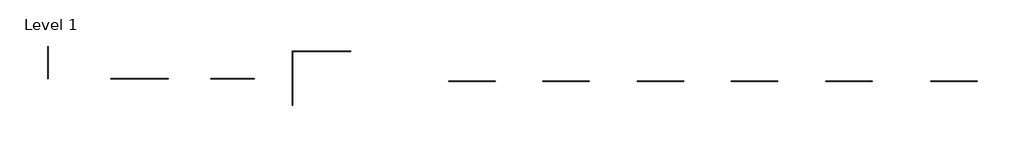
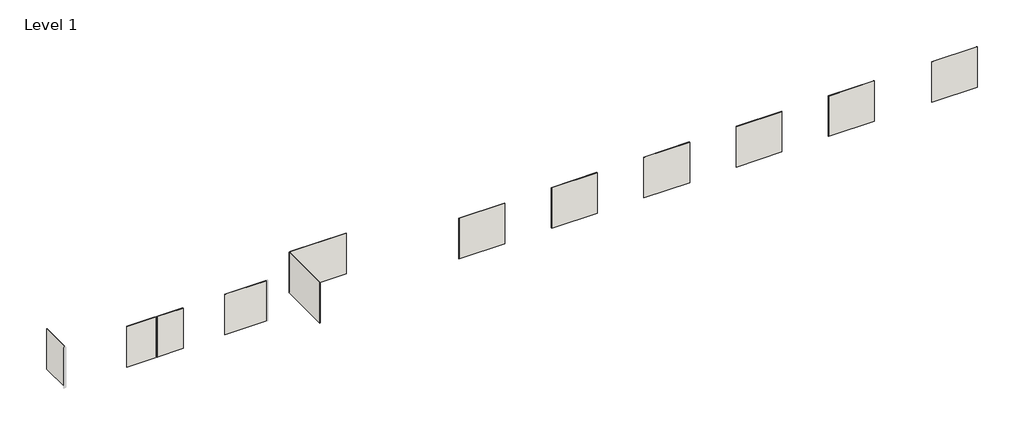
# One storey, part 1 of 2: 12 walls.
"""IFC4 building model written with IfcOpenShell, lengths in millimetres."""

import ifcopenshell
import ifcopenshell.guid

model = None  # the IFC model being written
_history = None  # IfcOwnerHistory: only IFC2X3 demands one
_inside = {}  # id of a spatial element -> (the spatial element, [elements in it])
_under = {}  # id of a project, library or spatial element -> (it, [spatial elements below it])
_declared = {}  # id of a project -> (the project, [libraries it declares])
_typed = {}  # id of a type object -> (the type object, [elements of that type])
_made_of = {}  # id of a material, layer set ... -> (it, [elements and type objects made of it])


def new_model(schema):
    """Start an empty IFC model of exactly this schema.

    Asked for "IFC4X3", IfcOpenShell would pick the latest addendum, in which some entities
    have other attributes; the version numbers below select the first issue.
    IFC2X3 requires an IfcOwnerHistory on every rooted entity: one is made here for all.
    """
    global model, _history
    if schema == "IFC4X3":
        model = ifcopenshell.file(schema_version=(4, 3, 0, 0))
    else:
        model = ifcopenshell.file(schema=schema)
    _inside.clear()
    _under.clear()
    _declared.clear()
    _typed.clear()
    _made_of.clear()
    _history = None
    if model.schema == "IFC2X3":
        org = make("IfcOrganization", Name="unknown")
        user = make(
            "IfcPersonAndOrganization",
            ThePerson=make("IfcPerson", FamilyName="unknown"),
            TheOrganization=org,
        )
        app = make(
            "IfcApplication",
            ApplicationDeveloper=org,
            Version="unknown",
            ApplicationFullName="unknown",
            ApplicationIdentifier="unknown",
        )
        _history = make(
            "IfcOwnerHistory",
            OwningUser=user,
            OwningApplication=app,
            ChangeAction="ADDED",
            CreationDate=0,
        )
    return model


def make(cls, **values):
    """One entity of the class cls with the attributes given. An attribute that is None is left unset."""
    return model.create_entity(
        cls, **{name: value for name, value in values.items() if value is not None}
    )


def rooted(cls, **values):
    """An entity with a GlobalId (a new one), such as an element, a storey or a relation."""
    return make(cls, GlobalId=ifcopenshell.guid.new(), OwnerHistory=_history, **values)


def si_unit(unit_type, name, prefix=None):
    """IfcSIUnit, for example si_unit("LENGTHUNIT", "METRE", prefix="MILLI")."""
    return make("IfcSIUnit", UnitType=unit_type, Prefix=prefix, Name=name)


def assignment(units):
    """IfcUnitAssignment: the units of a project."""
    return None if units is None else make("IfcUnitAssignment", Units=units)


def point(xyz):
    """IfcCartesianPoint."""
    return None if xyz is None else make("IfcCartesianPoint", Coordinates=xyz)


def direction(xyz):
    """IfcDirection."""
    return None if xyz is None else make("IfcDirection", DirectionRatios=xyz)


def frame(location, z_axis=None, x_axis=None):
    """IfcAxis2Placement3D, a coordinate frame: its origin and axes. An axis left out is left unset."""
    return make(
        "IfcAxis2Placement3D",
        Location=point(location),
        Axis=direction(z_axis),
        RefDirection=direction(x_axis),
    )


def frame_2d(location, x_axis=None):
    """IfcAxis2Placement2D, a coordinate frame in the plane: its origin and x axis."""
    return make(
        "IfcAxis2Placement2D", Location=point(location), RefDirection=direction(x_axis)
    )


def origin():
    """The frame at (0, 0, 0) with its axes left unset."""
    return frame((0.0, 0.0, 0.0))


def place(relative_to, where):
    """IfcLocalPlacement: puts the frame where relative to a parent placement (None: the world)."""
    return make(
        "IfcLocalPlacement", PlacementRelTo=relative_to, RelativePlacement=where
    )


def context(
    kind, dimensions, precision=None, world=None, true_north=None, identifier=None
):
    """IfcGeometricRepresentationContext, for example the 3D "Model" context."""
    return make(
        "IfcGeometricRepresentationContext",
        ContextIdentifier=identifier,
        ContextType=kind,
        CoordinateSpaceDimension=dimensions,
        Precision=precision,
        WorldCoordinateSystem=world,
        TrueNorth=true_north,
    )


def project(units=None, contexts=None):
    """IfcProject with its units and contexts."""
    return rooted(
        "IfcProject",
        Name="project",
        RepresentationContexts=contexts,
        UnitsInContext=assignment(units),
    )


def spatial(cls, under=None, at=None, **own):
    """A site, building, storey or space (cls), placed at a placement, below another one or the project."""
    s = rooted(cls, ObjectPlacement=at, **own)
    if under is not None:
        _under.setdefault(under.id(), (under, []))[1].append(s)
    return s


def polyline(points):
    """IfcPolyline through the points."""
    return make("IfcPolyline", Points=[point(p) for p in points])


def circle_curve(where, radius):
    """IfcCircle in the frame where."""
    return make("IfcCircle", Position=where, Radius=radius)


def trimmed(basis, trim1, trim2, sense, master):
    """IfcTrimmedCurve: the piece of a basis curve between two trims."""
    return make(
        "IfcTrimmedCurve",
        BasisCurve=basis,
        Trim1=trim1,
        Trim2=trim2,
        SenseAgreement=sense,
        MasterRepresentation=master,
    )


def segment(curve, same_sense, transition):
    """IfcCompositeCurveSegment."""
    return make(
        "IfcCompositeCurveSegment",
        Transition=transition,
        SameSense=same_sense,
        ParentCurve=curve,
    )


def composite_curve(segments, self_intersect=None):
    """IfcCompositeCurve: segments joined end to end."""
    return make("IfcCompositeCurve", Segments=segments, SelfIntersect=self_intersect)


def outline(outer, holes=None, kind="AREA"):
    """IfcArbitraryClosedProfileDef: a profile drawn as a closed curve; with holes, ...WithVoids."""
    if holes is None:
        return make("IfcArbitraryClosedProfileDef", ProfileType=kind, OuterCurve=outer)
    return make(
        "IfcArbitraryProfileDefWithVoids",
        ProfileType=kind,
        OuterCurve=outer,
        InnerCurves=holes,
    )


def extrude(swept, where, along, depth):
    """IfcExtrudedAreaSolid: the profile swept, set in the frame where, extruded along a direction by depth."""
    return make(
        "IfcExtrudedAreaSolid",
        SweptArea=swept,
        Position=where,
        ExtrudedDirection=direction(along),
        Depth=depth,
    )


def shape(context_of_items, identifier, shape_type, items):
    """IfcShapeRepresentation: the items that make up one representation, for example the "Body"."""
    return make(
        "IfcShapeRepresentation",
        ContextOfItems=context_of_items,
        RepresentationIdentifier=identifier,
        RepresentationType=shape_type,
        Items=items,
    )


def made_of(thing, what):
    """Note that an element or type object is made of a material, layer set ...; save() writes the relation."""
    if what is not None:
        _made_of.setdefault(what.id(), (what, []))[1].append(thing)
    return thing


def element(
    cls,
    number,
    at=None,
    inside=None,
    cuts=None,
    type_object=None,
    material=None,
    context=None,
    identifier="Body",
    shape_type=None,
    held_by="IfcProductDefinitionShape",
    body=None,
    shapes=None,
    **own,
):
    """One element of the class cls, such as IfcWall. Its Tag is "e" and its number.

    at: its placement. inside: the storey or other place that contains it. cuts: it is an
    opening in that element (IfcRelVoidsElement). A single representation is given by context,
    identifier, shape_type and body (its items); several are given by shapes. held_by: the class
    of the entity that holds the representations. save() writes the other relations.
    """
    e = rooted(cls, Tag="e%d" % number, ObjectPlacement=at, **own)
    if body is not None:
        shapes = [shape(context, identifier, shape_type, body)]
    if shapes is not None:
        e.Representation = make(held_by, Representations=shapes)
    if inside is not None:
        _inside.setdefault(inside.id(), (inside, []))[1].append(e)
    if cuts is not None:
        rooted(
            "IfcRelVoidsElement", RelatingBuildingElement=cuts, RelatedOpeningElement=e
        )
    if type_object is not None:
        _typed.setdefault(type_object.id(), (type_object, []))[1].append(e)
    return made_of(e, material)


def aggregate(whole, parts):
    """IfcRelAggregates: a whole, such as a stair, and the parts it consists of."""
    return rooted("IfcRelAggregates", RelatingObject=whole, RelatedObjects=parts)


def save(model, path):
    """Write the relations noted so far, then the file.

    IfcRelAggregates (storeys below a building ...), IfcRelContainedInSpatialStructure (elements
    in a storey), IfcRelDefinesByType, IfcRelAssociatesMaterial and IfcRelDeclares: one each for
    every whole, place, type object, material and project.
    """
    for whole, parts in _under.values():
        aggregate(whole, parts)
    for where, things in _inside.values():
        rooted(
            "IfcRelContainedInSpatialStructure",
            RelatedElements=things,
            RelatingStructure=where,
        )
    for kind, things in _typed.values():
        rooted("IfcRelDefinesByType", RelatedObjects=things, RelatingType=kind)
    for what, things in _made_of.values():
        rooted("IfcRelAssociatesMaterial", RelatedObjects=things, RelatingMaterial=what)
    for by, libraries in _declared.values():
        rooted("IfcRelDeclares", RelatingContext=by, RelatedDefinitions=libraries)
    model.write(path)


def plane_surface(at):
    """IfcPlane: the flat surface through the origin of the frame at, square to its z axis."""
    return make("IfcPlane", Position=at)


def cylinder_surface(at, radius):
    """IfcCylindricalSurface: all points at the distance radius from the z axis of the frame at."""
    return make("IfcCylindricalSurface", Position=at, Radius=radius)


def revolved_surface(curve, axis_point, axis_direction):
    """IfcSurfaceOfRevolution: the curve turned about the line through axis_point along axis_direction."""
    return make(
        "IfcSurfaceOfRevolution",
        SweptCurve=make("IfcArbitraryOpenProfileDef", ProfileType="CURVE", Curve=curve),
        AxisPosition=make("IfcAxis1Placement", Location=point(axis_point), Axis=direction(axis_direction)),
    )


def advanced_brep(points, edges, surfaces, faces):
    """IfcAdvancedBrep: a solid bounded by faces that lie on surfaces and meet in shared edges.

    An edge is (start, end): straight between two places in points (the first is 0);
    or (start, end, curve); or (start, end, curve, False) where it runs against its curve.
    A face is (place in surfaces, loops), or (place, loops, False) where it looks against
    its surface's normal. A loop lists edges by number (the first is 1), with a minus sign
    where the edge is run from its end to its start. The first loop is the outer one.
    """
    corners = [point(p) for p in points]
    vertices = [make("IfcVertexPoint", VertexGeometry=c) for c in corners]
    made = []
    for start, end, *more in edges:
        made.append(
            make(
                "IfcEdgeCurve",
                EdgeStart=vertices[start],
                EdgeEnd=vertices[end],
                EdgeGeometry=more[0] if more else make("IfcPolyline", Points=[corners[start], corners[end]]),
                SameSense=more[1] if len(more) > 1 else True,
            )
        )
    hull = []
    for where, loops, *sense in faces:
        bounds = []
        for j, loop in enumerate(loops):
            ring = [make("IfcOrientedEdge", EdgeElement=made[abs(k) - 1], Orientation=k > 0) for k in loop]
            bounds.append(
                make(
                    "IfcFaceOuterBound" if j == 0 else "IfcFaceBound",
                    Bound=make("IfcEdgeLoop", EdgeList=ring),
                    Orientation=True,
                )
            )
        hull.append(make("IfcAdvancedFace", Bounds=bounds, FaceSurface=surfaces[where], SameSense=sense[0] if sense else True))
    return make("IfcAdvancedBrep", Outer=make("IfcClosedShell", CfsFaces=hull))


model = new_model("IFC4")

# Units and contexts
model_context = context("Model", 3, world=origin())
ifc_project = project(units=[si_unit("LENGTHUNIT", "METRE", prefix="MILLI")], contexts=[model_context])

# Site, building, storey
site = spatial("IfcSite", under=ifc_project)
building = spatial("IfcBuilding", under=site)
storey = spatial("IfcBuildingStorey", under=building, Name="Level 1", Elevation=0.0)

# Walls
placement = place(None, origin())
element("IfcWall", 1, ObjectType="NewTechWood - Brazilian Ipe", at=placement, inside=storey, context=model_context, shape_type="SweptSolid", body=[
    extrude(outline(polyline([(6163.7297461, -3646.2746479), (4207.9297461, -3646.2746479), (4207.9297461, -3625.6371479), (6163.7297461, -3625.6371479), (6163.7297461, -3646.2746479)])), frame((0.0, 0.0, 304.8), z_axis=(0.0, 0.0, 1.0), x_axis=(1.0, 0.0, 0.0)), (0.0, 0.0, 1.0), 1828.8),
])
element("IfcWall", 2, ObjectType="NewTechWood - Hawaiian Charcoal", at=placement, inside=storey, context=model_context, shape_type="SweptSolid", body=[
    extrude(outline(polyline([(10126.1297461, -3646.2746479), (8170.3297461, -3646.2746479), (8170.3297461, -3625.6371479), (10126.1297461, -3625.6371479), (10126.1297461, -3646.2746479)])), frame((0.0, 0.0, 304.8), z_axis=(0.0, 0.0, 1.0), x_axis=(1.0, 0.0, 0.0)), (0.0, 0.0, 1.0), 1828.8),
])
element("IfcWall", 3, ObjectType="NewTechWood - Peruvian Teak", at=placement, inside=storey, context=model_context, shape_type="SweptSolid", body=[
    extrude(outline(polyline([(14088.5297461, -3646.2746479), (12132.7297461, -3646.2746479), (12132.7297461, -3625.6371479), (14088.5297461, -3625.6371479), (14088.5297461, -3646.2746479)])), frame((0.0, 0.0, 304.8), z_axis=(0.0, 0.0, 1.0), x_axis=(1.0, 0.0, 0.0)), (0.0, 0.0, 1.0), 1828.8),
])
element("IfcWall", 4, ObjectType="NewTechWood - Westminister Gray", at=placement, inside=storey, context=model_context, shape_type="SweptSolid", body=[
    extrude(outline(polyline([(26436.1047461, -3646.2746479), (24480.3047461, -3646.2746479), (24480.3047461, -3625.6371479), (26436.1047461, -3625.6371479), (26436.1047461, -3646.2746479)])), frame((0.0, 0.0, 304.8), z_axis=(0.0, 0.0, 1.0), x_axis=(1.0, 0.0, 0.0)), (0.0, 0.0, 1.0), 1828.8),
])
element("IfcWall", 5, ObjectType="NewTechWood - Brazilian Ipe", at=placement, inside=storey, context=model_context, shape_type="AdvancedBrep", body=[
    advanced_brep(
    [(-5784.0244107, -3551.654634, 2133.6), (-5784.0244107, -3551.654634, 304.8), (-3991.8694316, -3551.654634, 304.8), (-3991.8694316, -3551.654634, 2133.6), (-5784.0244107, -3531.017134, 304.8), (-5784.0244107, -3531.017134, 2133.6), (-3971.2244107, -3531.017134, 2133.6), (-3956.2244107, -3531.017134, 2133.6), (-3956.2244107, -3531.017134, 304.8), (-3971.2244107, -3531.017134, 304.8), (-3955.2244107, -3532.017134, 304.8), (-3955.2244107, -3544.017134, 304.8), (-3956.2244107, -3545.017134, 304.8), (-3991.2244107, -3545.017134, 304.8), (-3992.2244107, -3546.017134, 304.8), (-3992.2244107, -3550.517134, 304.8), (-3955.2244107, -3532.017134, 2133.6), (-3955.2244107, -3544.017134, 2133.6), (-3992.2244107, -3550.517134, 2133.6), (-3992.2244107, -3546.017134, 2133.6), (-3991.2244107, -3545.017134, 2133.6), (-3956.2244107, -3545.017134, 2133.6)],
    [
        (0, 1),
        (1, 2),
        (2, 3),
        (3, 0),
        (4, 5),
        (5, 6),
        (6, 7),
        (7, 8),
        (8, 9),
        (9, 4),
        (1, 4),
        (8, 10, circle_curve(frame((-3956.2244107, -3532.017134, 304.8), z_axis=(0.0, 0.0, -1.0), x_axis=(-1.0, 0.0, 0.0)), 1.0)),
        (10, 11),
        (11, 12, circle_curve(frame((-3956.2244107, -3544.017134, 304.8), z_axis=(0.0, 0.0, -1.0), x_axis=(1.0, 0.0, 0.0)), 1.0)),
        (12, 13),
        (13, 14, circle_curve(frame((-3991.2244107, -3546.017134, 304.8), z_axis=(0.0, 0.0, 1.0), x_axis=(1.0, 0.0, 0.0)), 1.0)),
        (14, 15),
        (15, 2, circle_curve(frame((-3990.2244107, -3550.517134, 304.8), z_axis=(0.0, 0.0, 1.0), x_axis=(1.0, 0.0, 0.0)), 2.0)),
        (10, 16),
        (16, 17),
        (17, 11),
        (5, 0),
        (3, 18, circle_curve(frame((-3990.2244107, -3550.517134, 2133.6), z_axis=(0.0, 0.0, -1.0), x_axis=(1.0, 0.0, 0.0)), 2.0)),
        (18, 19),
        (19, 20, circle_curve(frame((-3991.2244107, -3546.017134, 2133.6), z_axis=(0.0, 0.0, -1.0), x_axis=(1.0, 0.0, 0.0)), 1.0)),
        (20, 21),
        (21, 17, circle_curve(frame((-3956.2244107, -3544.017134, 2133.6), z_axis=(0.0, 0.0, 1.0), x_axis=(1.0, 0.0, 0.0)), 1.0)),
        (16, 7, circle_curve(frame((-3956.2244107, -3532.017134, 2133.6), z_axis=(0.0, 0.0, 1.0), x_axis=(-1.0, 0.0, 0.0)), 1.0)),
        (15, 18),
        (14, 19),
        (13, 20),
        (12, 21),
    ],
    [
        plane_surface(frame((-5784.0244107, -3551.654634, 304.8), z_axis=(0.0, -1.0, 0.0), x_axis=(1.0, 0.0, 0.0))),
        plane_surface(frame((-5784.0244107, -3531.017134, 304.8), z_axis=(0.0, 1.0, 0.0), x_axis=(-1.0, 0.0, 0.0))),
        plane_surface(frame((-5784.0244107, -3551.654634, 304.8), z_axis=(0.0, 0.0, -1.0), x_axis=(0.0, 1.0, 0.0))),
        plane_surface(frame((-3955.2244107, -3551.654634, 304.8), z_axis=(1.0, 0.0, 0.0), x_axis=(0.0, 1.0, 0.0))),
        plane_surface(frame((-3955.2244107, -3551.654634, 2133.6), z_axis=(0.0, 0.0, 1.0), x_axis=(0.0, 1.0, 0.0))),
        plane_surface(frame((-5784.0244107, -3551.654634, 2133.6), z_axis=(-1.0, 0.0, 0.0), x_axis=(0.0, 1.0, 0.0))),
        revolved_surface(polyline([(-3988.2244107, -3550.517134, 304.8), (-3988.2244107, -3550.517134, 2133.6)]), (-3990.2244107, -3550.517134, 304.8), (0.0, 0.0, -1.0)),
        plane_surface(frame((-3992.2244107, -3550.517134, 304.8), z_axis=(1.0, 0.0, 0.0), x_axis=(0.0, 0.0, 1.0))),
        revolved_surface(polyline([(-3990.2244107, -3546.017134, 304.8), (-3990.2244107, -3546.017134, 2133.6)]), (-3991.2244107, -3546.017134, 304.8), (0.0, 0.0, -1.0)),
        plane_surface(frame((-3991.2244107, -3545.017134, 304.8), z_axis=(0.0, -1.0, 0.0), x_axis=(0.0, 0.0, 1.0))),
        cylinder_surface(frame((-3956.2244107, -3544.017134, 304.8), z_axis=(0.0, 0.0, 1.0), x_axis=(1.0, 0.0, 0.0)), 1.0),
        cylinder_surface(frame((-3956.2244107, -3532.017134, 304.8), z_axis=(0.0, 0.0, 1.0), x_axis=(-1.0, 0.0, 0.0)), 1.0),
    ],
    [
        (0, [[1, 2, 3, 4]]),
        (1, [[5, 6, 7, 8, 9, 10]]),
        (2, [[11, -10, -9, 12, 13, 14, 15, 16, 17, 18, -2]]),
        (3, [[-13, 19, 20, 21]]),
        (4, [[22, -4, 23, 24, 25, 26, 27, -20, 28, -7, -6]]),
        (5, [[-1, -22, -5, -11]]),
        (6, [[29, -23, -3, -18]]),
        (7, [[-29, -17, 30, -24]]),
        (8, [[-30, -16, 31, -25]]),
        (9, [[-31, -15, 32, -26]]),
        (10, [[-32, -14, -21, -27]]),
        (11, [[-8, -28, -19, -12]]),
    ],
),
])
element("IfcWall", 6, ObjectType="NewTechWood - Westminister Gray", at=placement, inside=storey, context=model_context, shape_type="AdvancedBrep", body=[
    advanced_brep(
    [(-2334.9515039, -4664.8614283, 2133.6), (-2334.9515039, -4664.8614283, 304.8), (-2334.9515039, -2423.3445534, 304.8), (-2334.9515039, -2423.3445534, 2133.6), (-2355.5890039, -4664.8614283, 304.8), (-2355.5890039, -4664.8614283, 2133.6), (-2355.5890039, -2388.0782122, 2133.6), (-2355.5890039, -2376.8350959, 2133.6), (-2355.5890039, -2376.8350959, 304.8), (-2355.5890039, -2388.0782122, 304.8), (-2352.373264, -2375.2939521, 304.8), (-2342.1411345, -2385.5260816, 304.8), (-2341.5890039, -2387.2185217, 304.8), (-2341.5890039, -2422.6995325, 304.8), (-2340.5890039, -2423.6995325, 304.8), (-2336.0890039, -2423.6995325, 304.8), (-2336.0890039, -2423.6995325, 2133.6), (-2340.5890039, -2423.6995325, 2133.6), (-2341.5890039, -2422.6995325, 2133.6), (-2341.5890039, -2387.2185217, 2133.6), (-2342.1411345, -2385.5260816, 2133.6), (-2352.373264, -2375.2939521, 2133.6)],
    [
        (0, 1),
        (1, 2),
        (2, 3),
        (3, 0),
        (4, 5),
        (5, 6),
        (6, 7),
        (7, 8),
        (8, 9),
        (9, 4),
        (1, 4),
        (8, 10, circle_curve(frame((-2353.6118372, -2376.8350959, 304.8), z_axis=(0.0, 0.0, -1.0), x_axis=(-1.0, 0.0, 0.0)), 1.9771667)),
        (10, 11),
        (11, 12, circle_curve(frame((-2343.5307579, -2386.915705, 304.8), z_axis=(0.0, 0.0, -1.0), x_axis=(-1.0, 0.0, 0.0)), 1.9652243)),
        (12, 13),
        (13, 14, circle_curve(frame((-2340.5890039, -2422.6995325, 304.8), z_axis=(0.0, 0.0, 1.0), x_axis=(-1.0, 0.0, 0.0)), 1.0)),
        (14, 15),
        (15, 2, circle_curve(frame((-2336.0890039, -2421.6995325, 304.8), z_axis=(0.0, 0.0, 1.0), x_axis=(-1.0, 0.0, 0.0)), 2.0)),
        (5, 0),
        (3, 16, circle_curve(frame((-2336.0890039, -2421.6995325, 2133.6), z_axis=(0.0, 0.0, -1.0), x_axis=(-1.0, 0.0, 0.0)), 2.0)),
        (16, 17),
        (17, 18, circle_curve(frame((-2340.5890039, -2422.6995325, 2133.6), z_axis=(0.0, 0.0, -1.0), x_axis=(-1.0, 0.0, 0.0)), 1.0)),
        (18, 19),
        (19, 20, circle_curve(frame((-2343.5307579, -2386.915705, 2133.6), z_axis=(0.0, 0.0, 1.0), x_axis=(-1.0, 0.0, 0.0)), 1.9652243)),
        (20, 21),
        (21, 7, circle_curve(frame((-2353.6118372, -2376.8350959, 2133.6), z_axis=(0.0, 0.0, 1.0), x_axis=(-1.0, 0.0, 0.0)), 1.9771667)),
        (21, 10),
        (17, 14),
        (13, 18),
        (12, 19),
        (11, 20),
        (15, 16),
    ],
    [
        plane_surface(frame((-2334.9515039, -4664.8614283, 304.8), z_axis=(1.0, 0.0, 0.0), x_axis=(0.0, 1.0, 0.0))),
        plane_surface(frame((-2355.5890039, -4664.8614283, 304.8), z_axis=(-1.0, 0.0, 0.0), x_axis=(0.0, -1.0, 0.0))),
        plane_surface(frame((-2334.9515039, -4664.8614283, 304.8), z_axis=(0.0, 0.0, -1.0), x_axis=(-1.0, 0.0, 0.0))),
        plane_surface(frame((-2334.9515039, -2378.8614283, 2133.6), z_axis=(0.0, 0.0, 1.0), x_axis=(-1.0, 0.0, 0.0))),
        plane_surface(frame((-2334.9515039, -4664.8614283, 2133.6), z_axis=(0.0, -1.0, 0.0), x_axis=(-1.0, 0.0, 0.0))),
        cylinder_surface(frame((-2353.6118372, -2376.8350959, 304.8), z_axis=(0.0, 0.0, 1.0), x_axis=(-1.0, 0.0, 0.0)), 1.9771667),
        revolved_surface(polyline([(-2341.5890039, -2422.6995325, 304.8), (-2341.5890039, -2422.6995325, 2133.6)]), (-2340.5890039, -2422.6995325, 304.8), (0.0, 0.0, -1.0)),
        plane_surface(frame((-2341.5890039, -2422.6995325, 304.8), z_axis=(1.0, 0.0, 0.0), x_axis=(0.0, 0.0, 1.0))),
        cylinder_surface(frame((-2343.5307579, -2386.915705, 304.8), z_axis=(0.0, 0.0, 1.0), x_axis=(-1.0, 0.0, 0.0)), 1.9652243),
        plane_surface(frame((-2342.1411345, -2385.5260816, 304.8), z_axis=(0.7071067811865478, 0.7071067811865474, 0.0), x_axis=(0.0, 0.0, 1.0))),
        revolved_surface(polyline([(-2338.0890039, -2421.6995325, 304.8), (-2338.0890039, -2421.6995325, 2133.6)]), (-2336.0890039, -2421.6995325, 304.8), (0.0, 0.0, -1.0)),
        plane_surface(frame((-2336.0890039, -2423.6995325, 304.8), z_axis=(0.0, 1.0, 0.0), x_axis=(0.0, 0.0, 1.0))),
    ],
    [
        (0, [[1, 2, 3, 4]]),
        (1, [[5, 6, 7, 8, 9, 10]]),
        (2, [[11, -10, -9, 12, 13, 14, 15, 16, 17, 18, -2]]),
        (3, [[19, -4, 20, 21, 22, 23, 24, 25, 26, -7, -6]]),
        (4, [[-1, -19, -5, -11]]),
        (5, [[27, -12, -8, -26]]),
        (6, [[28, -16, 29, -22]]),
        (7, [[-29, -15, 30, -23]]),
        (8, [[-30, -14, 31, -24]]),
        (9, [[-31, -13, -27, -25]]),
        (10, [[32, -20, -3, -18]]),
        (11, [[-28, -21, -32, -17]]),
    ],
),
    advanced_brep(
    [(-2334.9515039, -2368.5426783, 304.8), (-2334.9515039, -2368.5426783, 2133.6), (-2334.9515039, -2382.5426783, 2133.6), (-2334.9515039, -2382.5426783, 304.8), (-2336.9131605, -2382.5426783, 304.8), (-2338.6056005, -2381.9905477, 304.8), (-2348.8377301, -2371.7584181, 304.8), (-2347.2965862, -2368.5426783, 304.8), (-2336.05347, -2368.5426783, 304.8), (-2336.05347, -2368.5426783, 2133.6), (-2347.2965862, -2368.5426783, 2133.6), (-2348.8377301, -2371.7584181, 2133.6), (-2338.6056005, -2381.9905477, 2133.6), (-2336.9131605, -2382.5426783, 2133.6)],
    [
        (0, 1),
        (1, 2),
        (2, 3),
        (3, 0),
        (3, 4),
        (4, 5, circle_curve(frame((-2337.2159771, -2380.6009243, 304.8), z_axis=(0.0, 0.0, -1.0), x_axis=(-1.0, 0.0, 0.0)), 1.9652243)),
        (5, 6),
        (6, 7, circle_curve(frame((-2347.2965862, -2370.5198449, 304.8), z_axis=(0.0, 0.0, -1.0), x_axis=(-1.0, 0.0, 0.0)), 1.9771667)),
        (7, 8),
        (8, 0),
        (1, 9),
        (9, 10),
        (10, 11, circle_curve(frame((-2347.2965862, -2370.5198449, 2133.6), z_axis=(0.0, 0.0, 1.0), x_axis=(-1.0, 0.0, 0.0)), 1.9771667)),
        (11, 12),
        (12, 13, circle_curve(frame((-2337.2159771, -2380.6009243, 2133.6), z_axis=(0.0, 0.0, 1.0), x_axis=(-1.0, 0.0, 0.0)), 1.9652243)),
        (13, 2),
        (7, 10),
        (6, 11),
        (5, 12),
        (4, 13),
    ],
    [
        plane_surface(frame((-2334.9515039, -4664.8614283, 304.8), z_axis=(1.0, 0.0, 0.0), x_axis=(0.0, 1.0, 0.0))),
        plane_surface(frame((-2334.9515039, -4664.8614283, 304.8), z_axis=(0.0, 0.0, -1.0), x_axis=(-1.0, 0.0, 0.0))),
        plane_surface(frame((-2334.9515039, -2378.8614283, 2133.6), z_axis=(0.0, 0.0, 1.0), x_axis=(-1.0, 0.0, 0.0))),
        plane_surface(frame((-2345.2702539, -2368.5426783, 304.8), z_axis=(0.0, 1.0, 0.0), x_axis=(-1.0, 0.0, 0.0))),
        cylinder_surface(frame((-2347.2965862, -2370.5198449, 304.8), z_axis=(0.0, 0.0, 1.0), x_axis=(-1.0, 0.0, 0.0)), 1.9771667),
        plane_surface(frame((-2348.8377301, -2371.7584181, 304.8), z_axis=(-0.7071067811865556, -0.7071067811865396, 0.0), x_axis=(0.0, 0.0, 1.0))),
        cylinder_surface(frame((-2337.2159771, -2380.6009243, 304.8), z_axis=(0.0, 0.0, 1.0), x_axis=(-1.0, 0.0, 0.0)), 1.9652243),
        plane_surface(frame((-2336.9131605, -2382.5426783, 304.8), z_axis=(0.0, -1.0, 0.0), x_axis=(0.0, 0.0, 1.0))),
    ],
    [
        (0, [[1, 2, 3, 4]]),
        (1, [[-4, 5, 6, 7, 8, 9, 10]]),
        (2, [[-2, 11, 12, 13, 14, 15, 16]]),
        (3, [[-1, -10, -9, 17, -12, -11]]),
        (4, [[18, -13, -17, -8]]),
        (5, [[-18, -7, 19, -14]]),
        (6, [[-19, -6, 20, -15]]),
        (7, [[-20, -5, -3, -16]]),
    ],
),
])
element("IfcWall", 7, ObjectType="NewTechWood - Westminister Gray", at=placement, inside=storey, context=model_context, shape_type="SweptSolid", body=[
    extrude(outline(composite_curve([segment(polyline([(-2334.9515039, -2368.5426783), (93.1297461, -2368.5426783), (93.1297461, -2389.1801783), (-2300.7871287, -2389.1801783)]), True, "CONTINUOUS"), segment(trimmed(circle_curve(frame_2d((-2302.4321496, -2388.0426783)), 2.0), [point((-2300.7871287, -2389.1801783))], [point((-2300.4321496, -2388.0426783))], True, "CARTESIAN"), True, "CONTINUOUS"), segment(polyline([(-2300.4321496, -2388.0426783), (-2300.4321496, -2383.5426783)]), True, "CONTINUOUS"), segment(trimmed(circle_curve(frame_2d((-2301.4321496, -2383.5426783)), 1.0), [point((-2300.4321496, -2383.5426783))], [point((-2301.4321496, -2382.5426783))], True, "CARTESIAN"), True, "CONTINUOUS"), segment(polyline([(-2301.4321496, -2382.5426783), (-2334.9515039, -2382.5426783), (-2334.9515039, -2368.5426783)]), True, "CONTINUOUS")], self_intersect=False)), frame((0.0, 0.0, 304.8), z_axis=(0.0, 0.0, 1.0), x_axis=(1.0, 0.0, 0.0)), (0.0, 0.0, 1.0), 1828.8),
])
element("IfcWall", 8, ObjectType="NewTechWood - Peruvian Teak", at=placement, inside=storey, context=model_context, shape_type="AdvancedBrep", body=[
    advanced_brep(
    [(-9979.2521319, -3551.654634, 304.8), (-8709.2521319, -3551.654634, 304.8), (-8709.2521319, -3551.654634, 2133.6), (-9979.2521319, -3551.654634, 2133.6), (-9979.2521319, -3531.017134, 304.8), (-9979.2521319, -3531.017134, 2133.6), (-8747.7521319, -3531.017134, 2133.6), (-8713.2521319, -3531.017134, 2133.6), (-8713.2521319, -3531.017134, 304.8), (-8747.7521319, -3531.017134, 304.8), (-8711.7521319, -3532.517134, 304.8), (-8711.7521319, -3545.017134, 304.8), (-8727.7521319, -3545.017134, 304.8), (-8728.7521319, -3546.017134, 304.8), (-8728.7521319, -3548.517134, 304.8), (-8726.7521319, -3550.517134, 304.8), (-8709.2521319, -3550.517134, 304.8), (-8709.2521319, -3550.517134, 2133.6), (-8726.7521319, -3550.517134, 2133.6), (-8728.7521319, -3548.517134, 2133.6), (-8728.7521319, -3546.017134, 2133.6), (-8727.7521319, -3545.017134, 2133.6), (-8711.7521319, -3545.017134, 2133.6), (-8711.7521319, -3532.517134, 2133.6)],
    [
        (0, 1),
        (1, 2),
        (2, 3),
        (3, 0),
        (4, 5),
        (5, 6),
        (6, 7),
        (7, 8),
        (8, 9),
        (9, 4),
        (0, 4),
        (8, 10, circle_curve(frame((-8713.2521319, -3532.517134, 304.8), z_axis=(0.0, 0.0, -1.0), x_axis=(1.0, 0.0, 0.0)), 1.5)),
        (10, 11),
        (11, 12),
        (12, 13, circle_curve(frame((-8727.7521319, -3546.017134, 304.8), z_axis=(0.0, 0.0, 1.0), x_axis=(1.0, 0.0, 0.0)), 1.0)),
        (13, 14),
        (14, 15, circle_curve(frame((-8726.7521319, -3548.517134, 304.8), z_axis=(0.0, 0.0, 1.0), x_axis=(1.0, 0.0, 0.0)), 2.0)),
        (15, 16),
        (16, 1),
        (16, 17),
        (17, 2),
        (17, 18),
        (18, 19, circle_curve(frame((-8726.7521319, -3548.517134, 2133.6), z_axis=(0.0, 0.0, -1.0), x_axis=(1.0, 0.0, 0.0)), 2.0)),
        (19, 20),
        (20, 21, circle_curve(frame((-8727.7521319, -3546.017134, 2133.6), z_axis=(0.0, 0.0, -1.0), x_axis=(1.0, 0.0, 0.0)), 1.0)),
        (21, 22),
        (22, 23),
        (23, 7, circle_curve(frame((-8713.2521319, -3532.517134, 2133.6), z_axis=(0.0, 0.0, 1.0), x_axis=(1.0, 0.0, 0.0)), 1.5)),
        (5, 3),
        (15, 18),
        (14, 19),
        (13, 20),
        (12, 21),
        (11, 22),
        (10, 23),
    ],
    [
        plane_surface(frame((-9979.2521319, -3551.654634, 304.8), z_axis=(0.0, -1.0, 0.0), x_axis=(1.0, 0.0, 0.0))),
        plane_surface(frame((-9979.2521319, -3531.017134, 304.8), z_axis=(0.0, 1.0, 0.0), x_axis=(-1.0, 0.0, 0.0))),
        plane_surface(frame((-9979.2521319, -3551.654634, 304.8), z_axis=(0.0, 0.0, -1.0), x_axis=(0.0, 1.0, 0.0))),
        plane_surface(frame((-8709.2521319, -3551.654634, 304.8), z_axis=(1.0, 0.0, 0.0), x_axis=(0.0, 1.0, 0.0))),
        plane_surface(frame((-8709.2521319, -3551.654634, 2133.6), z_axis=(0.0, 0.0, 1.0), x_axis=(0.0, 1.0, 0.0))),
        plane_surface(frame((-9979.2521319, -3551.654634, 2133.6), z_axis=(-1.0, 0.0, 0.0), x_axis=(0.0, 1.0, 0.0))),
        plane_surface(frame((-8691.7521319, -3550.517134, 304.8), z_axis=(0.0, 1.0, 0.0), x_axis=(0.0, 0.0, 1.0))),
        revolved_surface(polyline([(-8724.7521319, -3548.517134, 304.8), (-8724.7521319, -3548.517134, 2133.6)]), (-8726.7521319, -3548.517134, 304.8), (0.0, 0.0, -1.0)),
        plane_surface(frame((-8728.7521319, -3548.517134, 304.8), z_axis=(1.0, 0.0, 0.0), x_axis=(0.0, 0.0, 1.0))),
        revolved_surface(polyline([(-8726.7521319, -3546.017134, 304.8), (-8726.7521319, -3546.017134, 2133.6)]), (-8727.7521319, -3546.017134, 304.8), (0.0, 0.0, -1.0)),
        plane_surface(frame((-8727.7521319, -3545.017134, 304.8), z_axis=(0.0, -1.0, 0.0), x_axis=(0.0, 0.0, 1.0))),
        plane_surface(frame((-8711.7521319, -3545.017134, 304.8), z_axis=(1.0, 0.0, 0.0), x_axis=(0.0, 0.0, 1.0))),
        cylinder_surface(frame((-8713.2521319, -3532.517134, 304.8), z_axis=(0.0, 0.0, 1.0), x_axis=(1.0, 0.0, 0.0)), 1.5),
    ],
    [
        (0, [[1, 2, 3, 4]]),
        (1, [[5, 6, 7, 8, 9, 10]]),
        (2, [[-1, 11, -10, -9, 12, 13, 14, 15, 16, 17, 18, 19]]),
        (3, [[-2, -19, 20, 21]]),
        (4, [[-3, -21, 22, 23, 24, 25, 26, 27, 28, -7, -6, 29]]),
        (5, [[-4, -29, -5, -11]]),
        (6, [[30, -22, -20, -18]]),
        (7, [[-30, -17, 31, -23]]),
        (8, [[-31, -16, 32, -24]]),
        (9, [[-32, -15, 33, -25]]),
        (10, [[-33, -14, 34, -26]]),
        (11, [[-34, -13, 35, -27]]),
        (12, [[-35, -12, -8, -28]]),
    ],
),
])
element("IfcWall", 9, ObjectType="NewTechWood - Peruvian Teak", at=placement, inside=storey, context=model_context, shape_type="AdvancedBrep", body=[
    advanced_brep(
    [(-8709.2521319, -3551.654634, 304.8), (-7566.2521319, -3551.654634, 304.8), (-7566.2521319, -3551.654634, 2133.6), (-8709.2521319, -3551.654634, 2133.6), (-7566.2521319, -3531.017134, 2133.6), (-7566.2521319, -3531.017134, 304.8), (-8670.7521319, -3531.017134, 304.8), (-8705.2521319, -3531.017134, 304.8), (-8705.2521319, -3531.017134, 2133.6), (-8670.7521319, -3531.017134, 2133.6), (-8709.2521319, -3550.517134, 304.8), (-8691.7521319, -3550.517134, 304.8), (-8689.7521319, -3548.517134, 304.8), (-8689.7521319, -3546.017134, 304.8), (-8690.7521319, -3545.017134, 304.8), (-8706.7521319, -3545.017134, 304.8), (-8706.7521319, -3532.517134, 304.8), (-8706.7521319, -3532.517134, 2133.6), (-8706.7521319, -3545.017134, 2133.6), (-8690.7521319, -3545.017134, 2133.6), (-8689.7521319, -3546.017134, 2133.6), (-8689.7521319, -3548.517134, 2133.6), (-8691.7521319, -3550.517134, 2133.6), (-8709.2521319, -3550.517134, 2133.6)],
    [
        (0, 1),
        (1, 2),
        (2, 3),
        (3, 0),
        (4, 5),
        (5, 6),
        (6, 7),
        (7, 8),
        (8, 9),
        (9, 4),
        (0, 10),
        (10, 11),
        (11, 12, circle_curve(frame((-8691.7521319, -3548.517134, 304.8), z_axis=(0.0, 0.0, 1.0), x_axis=(1.0, 0.0, 0.0)), 2.0)),
        (12, 13),
        (13, 14, circle_curve(frame((-8690.7521319, -3546.017134, 304.8), z_axis=(0.0, 0.0, 1.0), x_axis=(1.0, 0.0, 0.0)), 1.0)),
        (14, 15),
        (15, 16),
        (16, 7, circle_curve(frame((-8705.2521319, -3532.517134, 304.8), z_axis=(0.0, 0.0, -1.0), x_axis=(1.0, 0.0, 0.0)), 1.5)),
        (5, 1),
        (4, 2),
        (8, 17, circle_curve(frame((-8705.2521319, -3532.517134, 2133.6), z_axis=(0.0, 0.0, 1.0), x_axis=(1.0, 0.0, 0.0)), 1.5)),
        (17, 18),
        (18, 19),
        (19, 20, circle_curve(frame((-8690.7521319, -3546.017134, 2133.6), z_axis=(0.0, 0.0, -1.0), x_axis=(1.0, 0.0, 0.0)), 1.0)),
        (20, 21),
        (21, 22, circle_curve(frame((-8691.7521319, -3548.517134, 2133.6), z_axis=(0.0, 0.0, -1.0), x_axis=(1.0, 0.0, 0.0)), 2.0)),
        (22, 23),
        (23, 3),
        (23, 10),
        (16, 17),
        (15, 18),
        (14, 19),
        (13, 20),
        (12, 21),
        (11, 22),
    ],
    [
        plane_surface(frame((-8709.2521319, -3551.654634, 304.8), z_axis=(0.0, -1.0, 0.0), x_axis=(1.0, 0.0, 0.0))),
        plane_surface(frame((-8709.2521319, -3531.017134, 304.8), z_axis=(0.0, 1.0, 0.0), x_axis=(-1.0, 0.0, 0.0))),
        plane_surface(frame((-8709.2521319, -3551.654634, 304.8), z_axis=(0.0, 0.0, -1.0), x_axis=(0.0, 1.0, 0.0))),
        plane_surface(frame((-7566.2521319, -3551.654634, 304.8), z_axis=(1.0, 0.0, 0.0), x_axis=(0.0, 1.0, 0.0))),
        plane_surface(frame((-7566.2521319, -3551.654634, 2133.6), z_axis=(0.0, 0.0, 1.0), x_axis=(0.0, 1.0, 0.0))),
        plane_surface(frame((-8709.2521319, -3551.654634, 2133.6), z_axis=(-1.0, 0.0, 0.0), x_axis=(0.0, 1.0, 0.0))),
        cylinder_surface(frame((-8705.2521319, -3532.517134, 304.8), z_axis=(0.0, 0.0, 1.0), x_axis=(1.0, 0.0, 0.0)), 1.5),
        plane_surface(frame((-8706.7521319, -3532.517134, 304.8), z_axis=(-1.0, 0.0, 0.0), x_axis=(0.0, 0.0, 1.0))),
        plane_surface(frame((-8706.7521319, -3545.017134, 304.8), z_axis=(0.0, -1.0, 0.0), x_axis=(0.0, 0.0, 1.0))),
        revolved_surface(polyline([(-8689.7521319, -3546.017134, 304.8), (-8689.7521319, -3546.017134, 2133.6)]), (-8690.7521319, -3546.017134, 304.8), (0.0, 0.0, -1.0)),
        plane_surface(frame((-8689.7521319, -3546.017134, 304.8), z_axis=(-1.0, 0.0, 0.0), x_axis=(0.0, 0.0, 1.0))),
        revolved_surface(polyline([(-8689.7521319, -3548.517134, 304.8), (-8689.7521319, -3548.517134, 2133.6)]), (-8691.7521319, -3548.517134, 304.8), (0.0, 0.0, -1.0)),
        plane_surface(frame((-8691.7521319, -3550.517134, 304.8), z_axis=(0.0, 1.0, 0.0), x_axis=(0.0, 0.0, 1.0))),
    ],
    [
        (0, [[1, 2, 3, 4]]),
        (1, [[5, 6, 7, 8, 9, 10]]),
        (2, [[-1, 11, 12, 13, 14, 15, 16, 17, 18, -7, -6, 19]]),
        (3, [[-2, -19, -5, 20]]),
        (4, [[-3, -20, -10, -9, 21, 22, 23, 24, 25, 26, 27, 28]]),
        (5, [[-4, -28, 29, -11]]),
        (6, [[30, -21, -8, -18]]),
        (7, [[-30, -17, 31, -22]]),
        (8, [[-31, -16, 32, -23]]),
        (9, [[-32, -15, 33, -24]]),
        (10, [[-33, -14, 34, -25]]),
        (11, [[-34, -13, 35, -26]]),
        (12, [[-35, -12, -29, -27]]),
    ],
),
])
element("IfcWall", 10, ObjectType="NewTechWood - Roman Antique", at=placement, inside=storey, context=model_context, shape_type="SweptSolid", body=[
    extrude(outline(polyline([(18050.9297461, -3646.2746479), (16095.1297461, -3646.2746479), (16095.1297461, -3625.6371479), (18050.9297461, -3625.6371479), (18050.9297461, -3646.2746479)])), frame((0.0, 0.0, 304.8), z_axis=(0.0, 0.0, 1.0), x_axis=(1.0, 0.0, 0.0)), (0.0, 0.0, 1.0), 1828.8),
])
element("IfcWall", 11, ObjectType="NewTechWood - Roman Antique", at=placement, inside=storey, context=model_context, shape_type="AdvancedBrep", body=[
    advanced_brep(
    [(-12610.5333819, -2169.735884, 304.8), (-12610.5333819, -2169.735884, 2133.6), (-12610.5333819, -3477.6244754, 2133.6), (-12610.5333819, -3477.6244754, 304.8), (-12631.1708819, -2169.735884, 2133.6), (-12631.1708819, -2169.735884, 304.8), (-12631.1708819, -3504.2933296, 304.8), (-12631.1708819, -3526.3412906, 304.8), (-12631.1708819, -3526.9469239, 304.8), (-12631.1708819, -3526.9469239, 2133.6), (-12631.1708819, -3526.3412906, 2133.6), (-12631.1708819, -3504.2933296, 2133.6), (-12615.1708819, -3477.6244754, 304.8), (-12617.1708819, -3479.6244754, 304.8), (-12617.1708819, -3531.017134, 304.8), (-12627.635348, -3531.017134, 304.8), (-12630.6187513, -3528.0337307, 304.8), (-12630.6187513, -3528.0337307, 2133.6), (-12627.635348, -3531.017134, 2133.6), (-12617.1708819, -3531.017134, 2133.6), (-12617.1708819, -3479.6244754, 2133.6), (-12615.1708819, -3477.6244754, 2133.6)],
    [
        (0, 1),
        (1, 2),
        (2, 3),
        (3, 0),
        (4, 5),
        (5, 6),
        (6, 7),
        (7, 8),
        (8, 9),
        (9, 10),
        (10, 11),
        (11, 4),
        (5, 0),
        (3, 12),
        (12, 13, circle_curve(frame((-12615.1708819, -3479.6244754, 304.8), z_axis=(0.0, 0.0, 1.0), x_axis=(0.7071067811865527, 0.7071067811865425, 0.0)), 2.0)),
        (13, 14),
        (14, 15),
        (15, 16),
        (16, 8, circle_curve(frame((-12629.2291279, -3526.6441073, 304.8), z_axis=(0.0, 0.0, -1.0), x_axis=(-0.7071067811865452, 0.7071067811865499, 0.0)), 1.9652243)),
        (4, 1),
        (9, 17, circle_curve(frame((-12629.2291279, -3526.6441073, 2133.6), z_axis=(0.0, 0.0, 1.0), x_axis=(-0.7071067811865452, 0.7071067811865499, 0.0)), 1.9652243)),
        (17, 18),
        (18, 19),
        (19, 20),
        (20, 21, circle_curve(frame((-12615.1708819, -3479.6244754, 2133.6), z_axis=(0.0, 0.0, -1.0), x_axis=(0.7071067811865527, 0.7071067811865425, 0.0)), 2.0)),
        (21, 2),
        (14, 19),
        (18, 15),
        (13, 20),
        (17, 16),
        (12, 21),
    ],
    [
        plane_surface(frame((-12610.5333819, -3541.335884, 304.8), z_axis=(1.0, 0.0, 0.0), x_axis=(0.0, 1.0, 0.0))),
        plane_surface(frame((-12631.1708819, -3541.335884, 304.8), z_axis=(-1.0, 0.0, 0.0), x_axis=(0.0, -1.0, 0.0))),
        plane_surface(frame((-12610.5333819, -3541.335884, 304.8), z_axis=(0.0, 0.0, -1.0), x_axis=(-1.0, 0.0, 0.0))),
        plane_surface(frame((-12610.5333819, -2169.735884, 304.8), z_axis=(0.0, 1.0, 0.0), x_axis=(-1.0, 0.0, 0.0))),
        plane_surface(frame((-12610.5333819, -2169.735884, 2133.6), z_axis=(0.0, 0.0, 1.0), x_axis=(-1.0, 0.0, 0.0))),
        plane_surface(frame((-14449.6521319, -3531.017134, 304.8), z_axis=(0.0, -1.0, 0.0), x_axis=(-1.0, 0.0, 0.0))),
        plane_surface(frame((-12617.1708819, -3538.4049191, 304.8), z_axis=(1.0, 0.0, 0.0), x_axis=(0.0, 0.0, 1.0))),
        plane_surface(frame((-12630.6187513, -3528.0337307, 304.8), z_axis=(-0.7071067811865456, -0.7071067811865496, 0.0), x_axis=(0.0, 0.0, 1.0))),
        revolved_surface(polyline([(-12613.756668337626, -3478.210261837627, 304.8), (-12613.756668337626, -3478.210261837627, 2133.600000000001)]), (-12615.1708819, -3479.6244754, 304.8), (0.0, 0.0, -1.0000000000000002)),
        plane_surface(frame((-12615.1708819, -3477.6244754, 304.8), z_axis=(0.0, -1.0, 0.0), x_axis=(0.0, 0.0, 1.0))),
        cylinder_surface(frame((-12629.2291279, -3526.6441073, 304.8), z_axis=(0.0, 0.0, 1.0), x_axis=(-0.7071067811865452, 0.7071067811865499, 0.0)), 1.9652243),
    ],
    [
        (0, [[1, 2, 3, 4]]),
        (1, [[5, 6, 7, 8, 9, 10, 11, 12]]),
        (2, [[13, -4, 14, 15, 16, 17, 18, 19, -8, -7, -6]]),
        (3, [[-1, -13, -5, 20]]),
        (4, [[-20, -12, -11, -10, 21, 22, 23, 24, 25, 26, -2]]),
        (5, [[-17, 27, -23, 28]]),
        (6, [[29, -24, -27, -16]]),
        (7, [[30, -18, -28, -22]]),
        (8, [[-29, -15, 31, -25]]),
        (9, [[-31, -14, -3, -26]]),
        (10, [[-30, -21, -9, -19]]),
    ],
),
])
element("IfcWall", 12, ObjectType="NewTechWood - Spanish Walnut", at=placement, inside=storey, context=model_context, shape_type="SweptSolid", body=[
    extrude(outline(polyline([(22013.3297461, -3646.2746479), (20057.5297461, -3646.2746479), (20057.5297461, -3625.6371479), (22013.3297461, -3625.6371479), (22013.3297461, -3646.2746479)])), frame((0.0, 0.0, 304.8), z_axis=(0.0, 0.0, 1.0), x_axis=(1.0, 0.0, 0.0)), (0.0, 0.0, 1.0), 1828.8),
])

save(model, "model.ifc")
